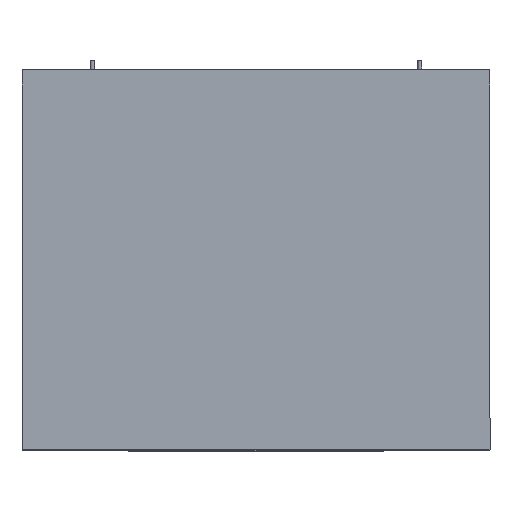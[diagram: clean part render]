
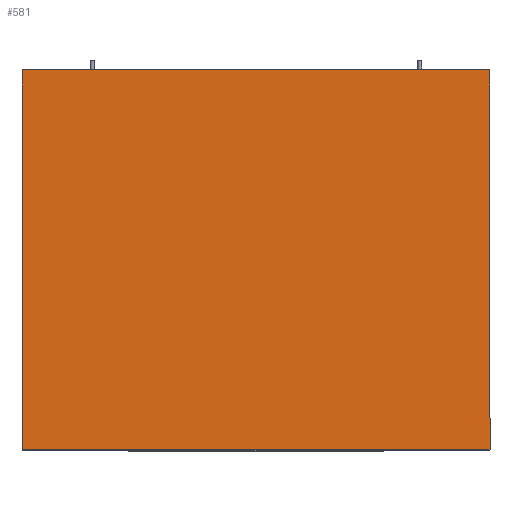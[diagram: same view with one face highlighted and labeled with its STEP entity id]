
A CAD part, top view. The second image highlights one B-rep face of the part: STEP entity #581.
In plain terms, the highlighted planar face has unit normal (0, 0, 1).
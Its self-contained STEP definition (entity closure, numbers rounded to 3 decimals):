
#56=LINE('',#934,#112);
#58=LINE('',#938,#114);
#59=LINE('',#940,#115);
#60=LINE('',#941,#116);
#112=VECTOR('',#762,10.);
#114=VECTOR('',#766,10.);
#115=VECTOR('',#767,10.);
#116=VECTOR('',#768,10.);
#176=FACE_OUTER_BOUND('',#216,.T.);
#216=EDGE_LOOP('',(#452,#453,#454,#455));
#290=VERTEX_POINT('',#931);
#291=VERTEX_POINT('',#933);
#292=VERTEX_POINT('',#937);
#293=VERTEX_POINT('',#939);
#350=EDGE_CURVE('',#290,#291,#56,.T.);
#352=EDGE_CURVE('',#292,#290,#58,.T.);
#353=EDGE_CURVE('',#292,#293,#59,.T.);
#354=EDGE_CURVE('',#293,#291,#60,.T.);
#452=ORIENTED_EDGE('',*,*,#352,.F.);
#453=ORIENTED_EDGE('',*,*,#353,.T.);
#454=ORIENTED_EDGE('',*,*,#354,.T.);
#455=ORIENTED_EDGE('',*,*,#350,.F.);
#548=PLANE('',#637);
#581=ADVANCED_FACE('',(#176),#548,.F.);
#637=AXIS2_PLACEMENT_3D('',#936,#764,#765);
#762=DIRECTION('',(0.,-1.,0.));
#764=DIRECTION('center_axis',(0.,0.,
-1.));
#765=DIRECTION('ref_axis',(-1.,0.,0.));
#766=DIRECTION('',(1.,0.,0.));
#767=DIRECTION('',(0.,-1.,0.));
#768=DIRECTION('',(1.,0.,0.));
#931=CARTESIAN_POINT('',(750.,1220.,750.));
#933=CARTESIAN_POINT('',(750.,4.,750.));
#934=CARTESIAN_POINT('',(750.,1220.,750.));
#936=CARTESIAN_POINT('Origin',(-750.,1220.,750.));
#937=CARTESIAN_POINT('',(-750.,1220.,750.));
#938=CARTESIAN_POINT('',(-750.,1220.,750.));
#939=CARTESIAN_POINT('',(-750.,4.,750.));
#940=CARTESIAN_POINT('',(-750.,1220.,750.));
#941=CARTESIAN_POINT('',(750.,4.,750.));
